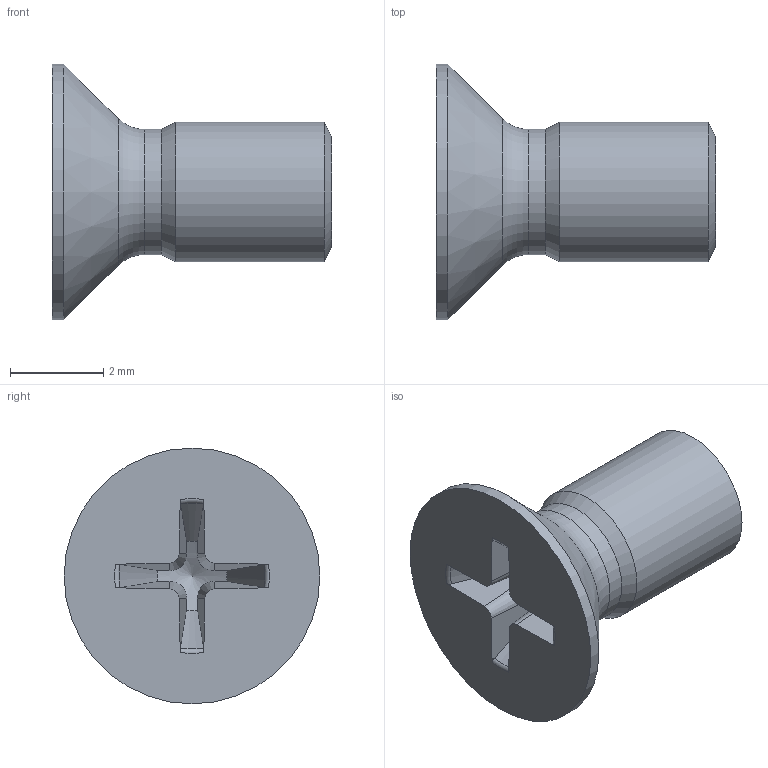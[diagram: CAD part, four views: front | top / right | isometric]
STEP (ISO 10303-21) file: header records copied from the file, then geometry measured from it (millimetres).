
FILE_DESCRIPTION(/* description */ ('Senkkopfschraube mit Kreuzschlitz M3x4 DIN 965','CAx-IF Rec.Pracs.---Representation and Presentation of Product Manufacturing Information (PMI)---4.0---2014-10-13'),/* implementation_level */ '2;1');
FILE_NAME(/* name */ 'E:\CAMTEC_2020_Pack and Go\Subrack_2U\2530396.stp',/* time_stamp */ '2020-09-21T14:50:53+02:00',/* author */ ('rryba'),/* organization */ (''),/* preprocessor_version */ 'ST-DEVELOPER v18.1',/* originating_system */ 'Autodesk Inventor 2021',/* authorisation */ '');
FILE_SCHEMA (('AP242_MANAGED_MODEL_BASED_3D_ENGINEERING_MIM_LF { 1 0 10303 442 1 1 4 }'));
Length unit declared in the file: millimetre
Products named in the file (1): 2530396
Bounding box: 6 x 5.5 x 5.5 mm (x, y, z)
Volume: 51.3 mm3; surface area: 113.2 mm2
Topology: 1 solids, 1 shells, 30 faces, 119 edges, 129 vertices
Faces by surface type: cone 12, plane 10, torus 5, cylinder 3
Full cylindrical faces by diameter (mm): 2.693 x1, 3 x1, 5.5 x1
Entity records: 1322 total; most frequent: CARTESIAN_POINT 381, DIRECTION 185, ORIENTED_EDGE 160, EDGE_CURVE 80, AXIS2_PLACEMENT_3D 77, VERTEX_POINT 53, CIRCLE 46, STYLED_ITEM 41
